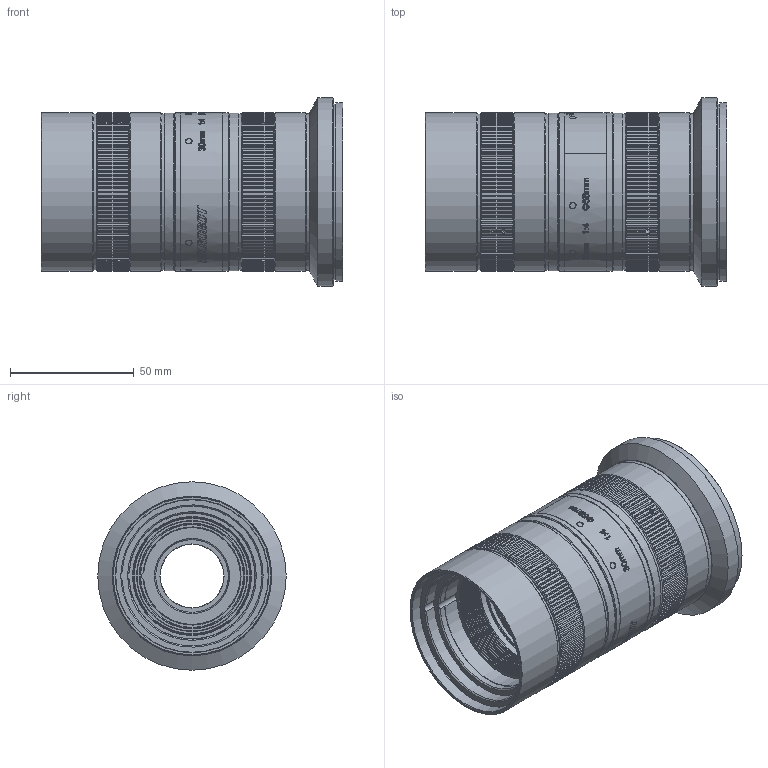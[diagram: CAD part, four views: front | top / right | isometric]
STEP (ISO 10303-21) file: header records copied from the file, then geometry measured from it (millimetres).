
FILE_DESCRIPTION(/* description */ (''),/* implementation_level */ '2;1');
FILE_NAME(/* name */ 'T-60043.0.stp',/* time_stamp */ '2024-04-29T13:07:26+08:00',/* author */ (''),/* organization */ (''),/* preprocessor_version */ 'ST-DEVELOPER v16.7',/* originating_system */ 'SIEMENS PLM Software NX 12.0',/* authorisation */ '');
FILE_SCHEMA (('AUTOMOTIVE_DESIGN { 1 0 10303 214 3 1 1 1 }'));
Length unit declared in the file: millimetre
Products named in the file (1): YC10E9CC74041dlg
Bounding box: 121.81 x 76 x 76 mm (x, y, z)
Volume: 152082.8 mm3; surface area: 113321.3 mm2
Topology: 6 solids, 6 shells, 1781 faces, 4822 edges, 3150 vertices
Faces by surface type: plane 862, cylinder 475, cone 249, bspline 195
Full cylindrical faces by diameter (mm): 1.35 x11, 1.5 x6, 1.6 x9, 1.8 x8, 2 x9, 2.3 x6, 25.643 x1, 28.602 x1, 29.3 x1, 29.893 x1, 32.202 x1, 34 x1, 34.7 x1, 34.785 x1, 38.006 x1, 41.5 x1, 42 x1, 42.2 x1, 42.6 x2, 43 x1, 44.323 x1, 44.9 x2, 45.9 x1, 46.5 x1, 47 x1, 47.7 x1, 47.9 x2, 50.092 x1, 51.4 x1, 52.696 x1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
Entity records: 78004 total; most frequent: CARTESIAN_POINT 37293, ORIENTED_EDGE 8810, DIRECTION 7312, EDGE_CURVE 4405, VERTEX_POINT 3085, AXIS2_PLACEMENT_3D 2900, EDGE_LOOP 2283, ADVANCED_FACE 1781
